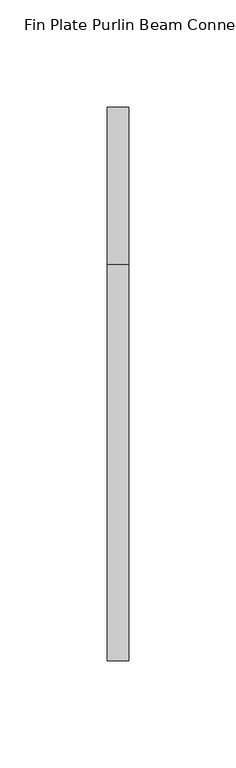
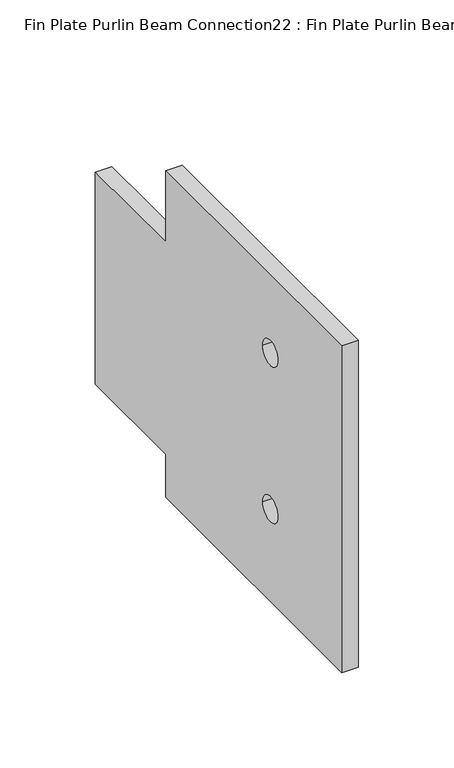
"""IFC4 building model written with IfcOpenShell, lengths in millimetres: proxy geometry, Fin Plate Purlin Beam Connection22 : Fin Plate Purlin Beam Connection."""

from ifc_helpers import new_model, si_unit, point, frame, frame_2d, origin, place, context, project, spatial, polyline, circle_curve, trimmed, segment, composite_curve, outline, extrude, source, transform, mapped, element, save


def fin_plate_purlin_beam_connection22_fin_plate_purlin_beam_f8feaea3(model_context):
    return source(origin(), model_context, "Body", "SweptSolid", [
        extrude(outline(polyline([(15850.823117, 2454.7182916), (15777.223117, 2454.7182916), (15777.223117, 2427.0006295), (15592.623117, 2427.0006295), (15592.623117, 2635.9566779), (15777.223117, 2635.9566779), (15777.223117, 2590.5), (15850.823117, 2590.5), (15850.823117, 2454.7182916)]), holes=[composite_curve([segment(trimmed(circle_curve(frame_2d((15667.623117, 2585.9566779)), 8.0), [point((15675.623117, 2585.9566779))], [point((15659.623117, 2585.9566779))], True, "CARTESIAN"), True, "CONTINUOUS"), segment(trimmed(circle_curve(frame_2d((15667.623117, 2585.9566779)), 8.0), [point((15659.623117, 2585.9566779))], [point((15675.623117, 2585.9566779))], True, "CARTESIAN"), True, "CONTINUOUS")], self_intersect=False), composite_curve([segment(trimmed(circle_curve(frame_2d((15667.623117, 2485.9566779)), 8.0), [point((15675.623117, 2485.9566779))], [point((15659.623117, 2485.9566779))], True, "CARTESIAN"), True, "CONTINUOUS"), segment(trimmed(circle_curve(frame_2d((15667.623117, 2485.9566779)), 8.0), [point((15659.623117, 2485.9566779))], [point((15675.623117, 2485.9566779))], True, "CARTESIAN"), True, "CONTINUOUS")], self_intersect=False)]), frame((-29366.0036256, 0.0, 0.0), z_axis=(1.0, 0.0, 0.0), x_axis=(0.0, 1.0, 0.0)), (0.0, 0.0, 1.0), 10.0),
    ])


if __name__ == "__main__":
    model = new_model("IFC4")
    model_context = context("Model", 3, world=origin())
    ifc_project = project(units=[si_unit("LENGTHUNIT", "METRE", prefix="MILLI")], contexts=[model_context])
    site = spatial("IfcSite", under=ifc_project)
    building = spatial("IfcBuilding", under=site)
    placement = place(None, origin())
    fin_plate_purlin_beam_connection22_fin_plate_purlin_beam_shape = fin_plate_purlin_beam_connection22_fin_plate_purlin_beam_f8feaea3(model_context)
    element("IfcBuildingElementProxy", 1, Name="Fin Plate Purlin Beam Connection22 : Fin Plate Purlin Beam Connection", ObjectType="Fin Plate Purlin Beam Connection22 : Fin Plate Purlin Beam Connection", at=placement, inside=building, context=model_context, shape_type="MappedRepresentation", body=[
        mapped(fin_plate_purlin_beam_connection22_fin_plate_purlin_beam_shape, transform((0.0, 0.0, 0.0), x_axis=(1.0, 0.0, 0.0), y_axis=(0.0, 1.0, 0.0), z_axis=(0.0, 0.0, 1.0))),
    ])
    save(model, "model.ifc")
